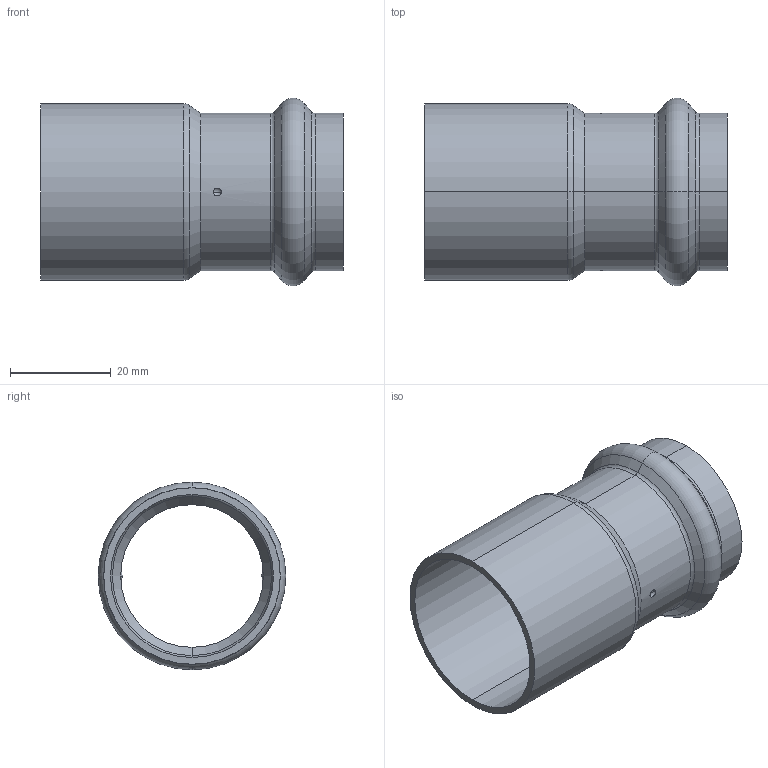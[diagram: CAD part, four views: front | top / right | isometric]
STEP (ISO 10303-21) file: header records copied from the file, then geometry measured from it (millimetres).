
FILE_DESCRIPTION (( 'STEP AP203' ), '1' );
FILE_NAME ('SP5243 35-28.STEP', '2017-04-24T09:06:22', ( '' ), ( '' ), 'SwSTEP 2.0', 'SolidWorks 2016', '' );
FILE_SCHEMA (( 'CONFIG_CONTROL_DESIGN' ));
Length unit declared in the file: millimetre
Products named in the file (1): SP5243 35-28
Bounding box: 60 x 37.2 x 37.2 mm (x, y, z)
Volume: 8932.6 mm3; surface area: 13011 mm2
Topology: 1 solids, 1 shells, 50 faces, 100 edges, 56 vertices
Faces by surface type: torus 16, cylinder 12, cone 12, sphere 8, plane 2
Entity records: 1481 total; most frequent: CARTESIAN_POINT 327, DIRECTION 262, ORIENTED_EDGE 200, AXIS2_PLACEMENT_3D 119, EDGE_CURVE 100, CIRCLE 68, EDGE_LOOP 56, VERTEX_POINT 56
